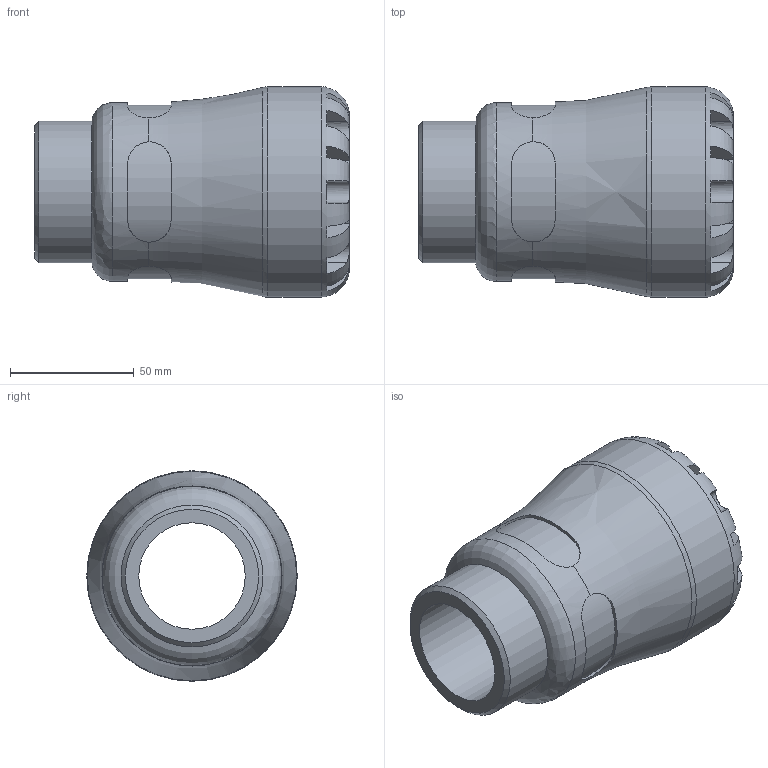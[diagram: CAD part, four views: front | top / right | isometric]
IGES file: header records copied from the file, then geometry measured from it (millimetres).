
Global section: file name: 107200050020_197200050020.ipt; native system: Autodesk Inventor 2015; preprocessor: unknown; author: KIM; date: 20170122.105000; units: millimetre
Bounding box: 127 x 85 x 85 mm (x, y, z)
Volume: 317248.5 mm3; surface area: 56089.6 mm2
Topology: 1 solids, 1 shells, 98 faces, 262 edges, 167 vertices
Faces by surface type: plane 59, revolution 23, cylinder 15, cone 1
Full cylindrical faces by diameter (mm): 57.296 x1, 72.25 x1, 85 x1
